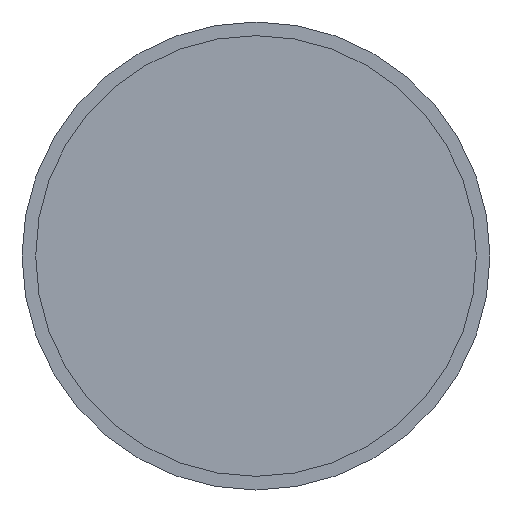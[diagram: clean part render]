
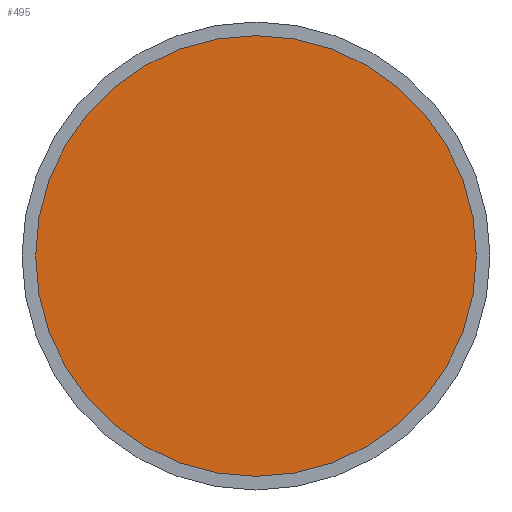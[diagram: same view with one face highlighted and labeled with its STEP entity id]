
A CAD part, front view. The second image highlights one B-rep face of the part: STEP entity #495.
In plain terms, the highlighted planar face has unit normal (0, -1, 0).
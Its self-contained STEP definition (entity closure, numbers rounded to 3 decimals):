
#4 = AXIS2_PLACEMENT_3D ( 'NONE', #122, #83, #262 ) ;
#42 = DIRECTION ( 'NONE',  ( 1., 0., 0. ) ) ;
#47 = CARTESIAN_POINT ( 'NONE',  ( 14.825, -48.99, 173. ) ) ;
#83 = DIRECTION ( 'NONE',  ( 0., 1., 0. ) ) ;
#122 = CARTESIAN_POINT ( 'NONE',  ( 12., -48.99, 173. ) ) ;
#172 = PLANE ( 'NONE',  #426 ) ;
#201 = VERTEX_POINT ( 'NONE', #47 ) ;
#216 = CIRCLE ( 'NONE', #4, 2.825 ) ;
#262 = DIRECTION ( 'NONE',  ( 1., 0., 0. ) ) ;
#314 = DIRECTION ( 'NONE',  ( 0., 1., 0. ) ) ;
#326 = VERTEX_POINT ( 'NONE', #484 ) ;
#343 = ORIENTED_EDGE ( 'NONE', *, *, #565, .F. ) ;
#405 = DIRECTION ( 'NONE',  ( 1., 0., 0. ) ) ;
#410 = CARTESIAN_POINT ( 'NONE',  ( 12., -48.99, 173. ) ) ;
#426 = AXIS2_PLACEMENT_3D ( 'NONE', #410, #545, #42 ) ;
#450 = FACE_OUTER_BOUND ( 'NONE', #459, .T. ) ;
#459 = EDGE_LOOP ( 'NONE', ( #343, #533 ) ) ;
#474 = AXIS2_PLACEMENT_3D ( 'NONE', #497, #314, #405 ) ;
#484 = CARTESIAN_POINT ( 'NONE',  ( 9.175, -48.99, 173. ) ) ;
#495 = ADVANCED_FACE ( 'NONE', ( #450 ), #172, .F. ) ;
#497 = CARTESIAN_POINT ( 'NONE',  ( 12., -48.99, 173. ) ) ;
#504 = CIRCLE ( 'NONE', #474, 2.825 ) ;
#533 = ORIENTED_EDGE ( 'NONE', *, *, #572, .F. ) ;
#545 = DIRECTION ( 'NONE',  ( 0., 1., 0. ) ) ;
#565 = EDGE_CURVE ( 'NONE', #201, #326, #504, .T. ) ;
#572 = EDGE_CURVE ( 'NONE', #326, #201, #216, .T. ) ;
